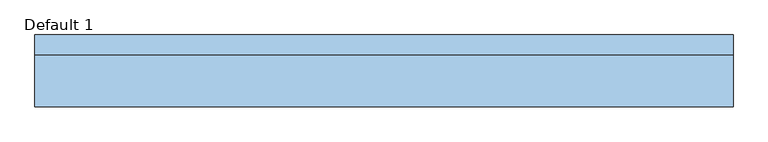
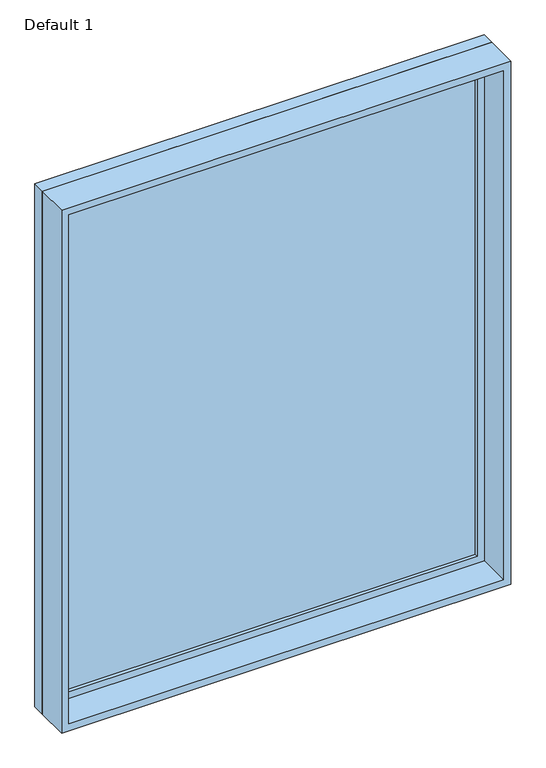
"""IFC4 building model written with IfcOpenShell, lengths in millimetres: window geometry, Planitar-Fixed : Default 1."""

from ifc_helpers import new_model, si_unit, frame, origin, place, context, project, spatial, polyline, outline, extrude, source, transform, mapped, element, save


def default_1_65789cbf(model_context):
    return source(origin(), model_context, "Body", "SweptSolid", [
        extrude(outline(polyline([(3333.8, -971.6076167), (933.4, -971.6076167), (933.4, 971.6076167), (3333.8, 971.6076167), (3333.8, -971.6076167)]), holes=[polyline([(3289.8, -927.6076167), (3289.8, 927.6076167), (977.4, 927.6076167), (977.4, -927.6076167), (3289.8, -927.6076167)])]), frame((0.0, 57.9, 0.0), z_axis=(0.0, 1.0, 0.0), x_axis=(0.0, 0.0, 1.0)), (0.0, 0.0, 1.0), 44.0),
        extrude(outline(polyline([(3352.8, -990.6076167), (914.4, -990.6076167), (914.4, 990.6076167), (3352.8, 990.6076167), (3352.8, -990.6076167)]), holes=[polyline([(3333.8, -971.6076167), (3333.8, 971.6076167), (933.4, 971.6076167), (933.4, -971.6076167), (3333.8, -971.6076167)])]), frame((0.0, 57.9, 0.0), z_axis=(0.0, 1.0, 0.0), x_axis=(0.0, 0.0, 1.0)), (0.0, 0.0, 1.0), 56.7),
        extrude(outline(polyline([(3352.8, -990.6076167), (914.4, -990.6076167), (914.4, 990.6076167), (3352.8, 990.6076167), (3352.8, -990.6076167)]), holes=[polyline([(3320.8, -958.6076167), (3320.8, 958.6076167), (946.4, 958.6076167), (946.4, -958.6076167), (3320.8, -958.6076167)])]), frame((0.0, -88.6, 0.0), z_axis=(0.0, 1.0, 0.0), x_axis=(0.0, 0.0, 1.0)), (0.0, 0.0, 1.0), 146.5),
        extrude(outline(polyline([(-927.6076167, 85.9), (927.6076167, 85.9), (927.6076167, 73.9), (-927.6076167, 73.9), (-927.6076167, 85.9)])), frame((0.0, 0.0, 977.4), z_axis=(0.0, 0.0, 1.0), x_axis=(1.0, 0.0, 0.0)), (0.0, 0.0, 1.0), 2312.4),
    ])


if __name__ == "__main__":
    model = new_model("IFC4")
    model_context = context("Model", 3, world=origin())
    ifc_project = project(units=[si_unit("LENGTHUNIT", "METRE", prefix="MILLI")], contexts=[model_context])
    site = spatial("IfcSite", under=ifc_project)
    building = spatial("IfcBuilding", under=site)
    placement = place(None, origin())
    default_1_shape = default_1_65789cbf(model_context)
    element("IfcWindow", 1, ObjectType="Planitar-Fixed : Default 1", at=placement, inside=building, context=model_context, shape_type="MappedRepresentation", body=[
        mapped(default_1_shape, transform((0.0, 0.0, 0.0), x_axis=(1.0, 0.0, 0.0), y_axis=(0.0, 1.0, 0.0), z_axis=(0.0, 0.0, 1.0))),
    ])
    save(model, "model.ifc")
